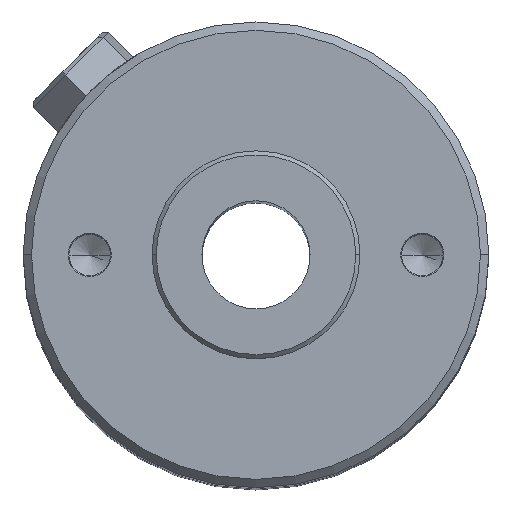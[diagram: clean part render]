
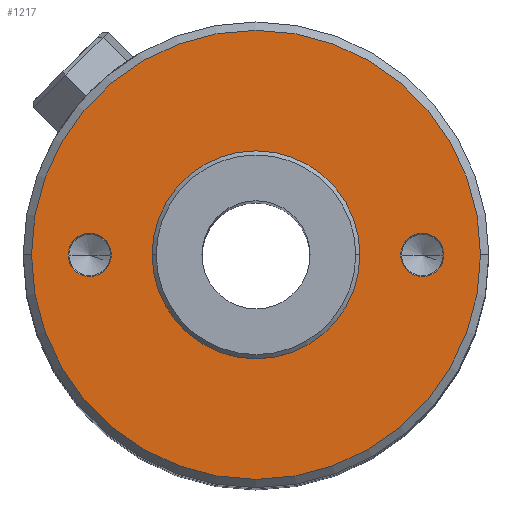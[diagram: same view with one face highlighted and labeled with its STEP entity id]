
A CAD part, top view. The second image highlights one B-rep face of the part: STEP entity #1217.
In plain terms, the highlighted planar face has unit normal (0, 0, 1).
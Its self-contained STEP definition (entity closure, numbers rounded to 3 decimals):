
#5 = EDGE_CURVE ( 'NONE', #470, #1004, #1403, .T. ) ;
#44 = ORIENTED_EDGE ( 'NONE', *, *, #418, .T. ) ;
#52 = DIRECTION ( 'NONE',  ( 1., 0., 0. ) ) ;
#54 = EDGE_LOOP ( 'NONE', ( #1861, #1169 ) ) ;
#63 = CARTESIAN_POINT ( 'NONE',  ( -27., 0., 160. ) ) ;
#90 = CARTESIAN_POINT ( 'NONE',  ( -20., 0., 160. ) ) ;
#103 = DIRECTION ( 'NONE',  ( 0., 0., 1. ) ) ;
#107 = VERTEX_POINT ( 'NONE', #1738 ) ;
#117 = CIRCLE ( 'NONE', #1223, 27. ) ;
#138 = VERTEX_POINT ( 'NONE', #63 ) ;
#196 = EDGE_LOOP ( 'NONE', ( #1493, #1559 ) ) ;
#199 = FACE_BOUND ( 'NONE', #942, .T. ) ;
#244 = DIRECTION ( 'NONE',  ( 1., 0., 0. ) ) ;
#258 = AXIS2_PLACEMENT_3D ( 'NONE', #1822, #928, #1976 ) ;
#260 = DIRECTION ( 'NONE',  ( 0., 0., 1. ) ) ;
#262 = DIRECTION ( 'NONE',  ( 0., 0., 1. ) ) ;
#267 = PLANE ( 'NONE',  #1920 ) ;
#417 = CARTESIAN_POINT ( 'NONE',  ( -22.6, 0., 160. ) ) ;
#418 = EDGE_CURVE ( 'NONE', #1480, #1630, #1858, .T. ) ;
#425 = ORIENTED_EDGE ( 'NONE', *, *, #1387, .T. ) ;
#470 = VERTEX_POINT ( 'NONE', #1267 ) ;
#524 = VERTEX_POINT ( 'NONE', #1675 ) ;
#566 = AXIS2_PLACEMENT_3D ( 'NONE', #1257, #1016, #810 ) ;
#584 = DIRECTION ( 'NONE',  ( 0., 0., 1. ) ) ;
#616 = AXIS2_PLACEMENT_3D ( 'NONE', #1044, #103, #1190 ) ;
#618 = DIRECTION ( 'NONE',  ( 0., 0., -1. ) ) ;
#661 = CIRCLE ( 'NONE', #1575, 2.6 ) ;
#695 = CIRCLE ( 'NONE', #1271, 2.6 ) ;
#735 = ORIENTED_EDGE ( 'NONE', *, *, #1481, .T. ) ;
#762 = CARTESIAN_POINT ( 'NONE',  ( -17.4, 0., 160. ) ) ;
#773 = EDGE_CURVE ( 'NONE', #524, #107, #949, .T. ) ;
#794 = AXIS2_PLACEMENT_3D ( 'NONE', #1539, #618, #1683 ) ;
#810 = DIRECTION ( 'NONE',  ( 1., 0., 0. ) ) ;
#869 = CARTESIAN_POINT ( 'NONE',  ( 27., 0., 160. ) ) ;
#928 = DIRECTION ( 'NONE',  ( 0., 0., 1. ) ) ;
#942 = EDGE_LOOP ( 'NONE', ( #425, #44 ) ) ;
#949 = CIRCLE ( 'NONE', #258, 12.5 ) ;
#986 = DIRECTION ( 'NONE',  ( 0., 0., -1. ) ) ;
#989 = FACE_BOUND ( 'NONE', #54, .T. ) ;
#1004 = VERTEX_POINT ( 'NONE', #1434 ) ;
#1010 = CIRCLE ( 'NONE', #616, 27. ) ;
#1016 = DIRECTION ( 'NONE',  ( 0., 0., -1. ) ) ;
#1044 = CARTESIAN_POINT ( 'NONE',  ( 0., 0., 160. ) ) ;
#1140 = CIRCLE ( 'NONE', #1521, 12.5 ) ;
#1166 = EDGE_CURVE ( 'NONE', #107, #524, #1140, .T. ) ;
#1169 = ORIENTED_EDGE ( 'NONE', *, *, #5, .T. ) ;
#1172 = DIRECTION ( 'NONE',  ( 0., 0., -1. ) ) ;
#1190 = DIRECTION ( 'NONE',  ( 1., 0., 0. ) ) ;
#1192 = CARTESIAN_POINT ( 'NONE',  ( 0., 0., 160. ) ) ;
#1193 = CARTESIAN_POINT ( 'NONE',  ( 0., 0., 160. ) ) ;
#1217 = ADVANCED_FACE ( 'NONE', ( #1782, #989, #199, #1823 ), #267, .T. ) ;
#1223 = AXIS2_PLACEMENT_3D ( 'NONE', #1193, #262, #1344 ) ;
#1257 = CARTESIAN_POINT ( 'NONE',  ( 20., 0., 160. ) ) ;
#1267 = CARTESIAN_POINT ( 'NONE',  ( 17.4, 0., 160. ) ) ;
#1271 = AXIS2_PLACEMENT_3D ( 'NONE', #90, #1172, #244 ) ;
#1342 = DIRECTION ( 'NONE',  ( 1., 0., 0. ) ) ;
#1344 = DIRECTION ( 'NONE',  ( 1., 0., 0. ) ) ;
#1368 = VERTEX_POINT ( 'NONE', #869 ) ;
#1387 = EDGE_CURVE ( 'NONE', #1630, #1480, #695, .T. ) ;
#1403 = CIRCLE ( 'NONE', #566, 2.6 ) ;
#1434 = CARTESIAN_POINT ( 'NONE',  ( 22.6, 0., 160. ) ) ;
#1459 = EDGE_CURVE ( 'NONE', #1368, #138, #1010, .T. ) ;
#1480 = VERTEX_POINT ( 'NONE', #417 ) ;
#1481 = EDGE_CURVE ( 'NONE', #138, #1368, #117, .T. ) ;
#1493 = ORIENTED_EDGE ( 'NONE', *, *, #773, .F. ) ;
#1521 = AXIS2_PLACEMENT_3D ( 'NONE', #1192, #260, #1342 ) ;
#1539 = CARTESIAN_POINT ( 'NONE',  ( -20., 0., 160. ) ) ;
#1559 = ORIENTED_EDGE ( 'NONE', *, *, #1166, .F. ) ;
#1575 = AXIS2_PLACEMENT_3D ( 'NONE', #1884, #986, #52 ) ;
#1630 = VERTEX_POINT ( 'NONE', #762 ) ;
#1649 = DIRECTION ( 'NONE',  ( 1., 0., 0. ) ) ;
#1675 = CARTESIAN_POINT ( 'NONE',  ( -12.5, 0., 160. ) ) ;
#1683 = DIRECTION ( 'NONE',  ( 1., 0., 0. ) ) ;
#1738 = CARTESIAN_POINT ( 'NONE',  ( 12.5, 0., 160. ) ) ;
#1782 = FACE_OUTER_BOUND ( 'NONE', #1833, .T. ) ;
#1822 = CARTESIAN_POINT ( 'NONE',  ( 0., 0., 160. ) ) ;
#1823 = FACE_BOUND ( 'NONE', #196, .T. ) ;
#1833 = EDGE_LOOP ( 'NONE', ( #735, #1967 ) ) ;
#1858 = CIRCLE ( 'NONE', #794, 2.6 ) ;
#1861 = ORIENTED_EDGE ( 'NONE', *, *, #1922, .T. ) ;
#1884 = CARTESIAN_POINT ( 'NONE',  ( 20., 0., 160. ) ) ;
#1920 = AXIS2_PLACEMENT_3D ( 'NONE', #1947, #584, #1649 ) ;
#1922 = EDGE_CURVE ( 'NONE', #1004, #470, #661, .T. ) ;
#1947 = CARTESIAN_POINT ( 'NONE',  ( 0., 0., 160. ) ) ;
#1967 = ORIENTED_EDGE ( 'NONE', *, *, #1459, .T. ) ;
#1976 = DIRECTION ( 'NONE',  ( 1., 0., 0. ) ) ;
